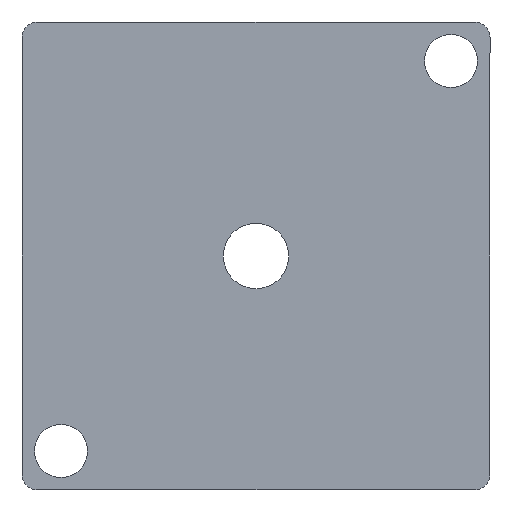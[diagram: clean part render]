
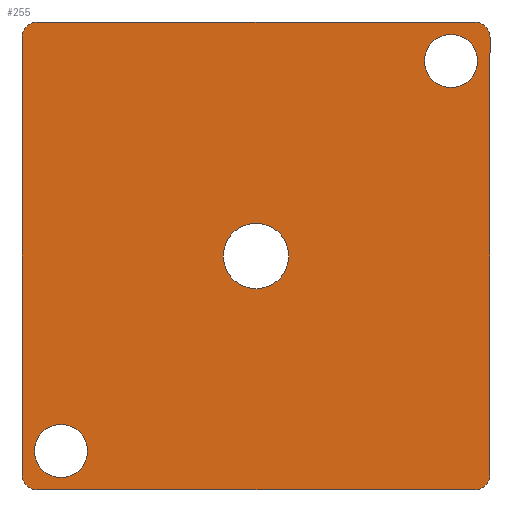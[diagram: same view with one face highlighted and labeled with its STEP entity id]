
A CAD part, left-side view. The second image highlights one B-rep face of the part: STEP entity #255.
In plain terms, the highlighted planar face has unit normal (-1, 0, 0).
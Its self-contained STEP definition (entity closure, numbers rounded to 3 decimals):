
#15=FACE_BOUND('',#42,.T.);
#16=FACE_BOUND('',#43,.T.);
#17=FACE_BOUND('',#44,.T.);
#21=PLANE('',#290);
#28=FACE_OUTER_BOUND('',#41,.T.);
#41=EDGE_LOOP('',(#179,#180,#181,#182,#183,#184,#185,#186));
#42=EDGE_LOOP('',(#187));
#43=EDGE_LOOP('',(#188));
#44=EDGE_LOOP('',(#189));
#61=LINE('',#410,#80);
#62=LINE('',#414,#81);
#63=LINE('',#418,#82);
#64=LINE('',#421,#83);
#80=VECTOR('',#329,10.);
#81=VECTOR('',#332,10.);
#82=VECTOR('',#335,10.);
#83=VECTOR('',#338,10.);
#98=CIRCLE('',#289,2.);
#99=CIRCLE('',#291,2.);
#100=CIRCLE('',#292,2.);
#101=CIRCLE('',#293,2.);
#102=CIRCLE('',#294,3.4);
#103=CIRCLE('',#295,3.4);
#104=CIRCLE('',#296,4.188);
#116=VERTEX_POINT('',#403);
#117=VERTEX_POINT('',#405);
#118=VERTEX_POINT('',#409);
#119=VERTEX_POINT('',#411);
#120=VERTEX_POINT('',#413);
#121=VERTEX_POINT('',#415);
#122=VERTEX_POINT('',#417);
#123=VERTEX_POINT('',#419);
#124=VERTEX_POINT('',#422);
#125=VERTEX_POINT('',#424);
#126=VERTEX_POINT('',#426);
#141=EDGE_CURVE('',#116,#117,#98,.T.);
#143=EDGE_CURVE('',#118,#116,#61,.T.);
#144=EDGE_CURVE('',#119,#118,#99,.T.);
#145=EDGE_CURVE('',#120,#119,#62,.T.);
#146=EDGE_CURVE('',#121,#120,#100,.T.);
#147=EDGE_CURVE('',#122,#121,#63,.T.);
#148=EDGE_CURVE('',#123,#122,#101,.T.);
#149=EDGE_CURVE('',#117,#123,#64,.T.);
#150=EDGE_CURVE('',#124,#124,#102,.T.);
#151=EDGE_CURVE('',#125,#125,#103,.T.);
#152=EDGE_CURVE('',#126,#126,#104,.T.);
#179=ORIENTED_EDGE('',*,*,#141,.F.);
#180=ORIENTED_EDGE('',*,*,#143,.F.);
#181=ORIENTED_EDGE('',*,*,#144,.F.);
#182=ORIENTED_EDGE('',*,*,#145,.F.);
#183=ORIENTED_EDGE('',*,*,#146,.F.);
#184=ORIENTED_EDGE('',*,*,#147,.F.);
#185=ORIENTED_EDGE('',*,*,#148,.F.);
#186=ORIENTED_EDGE('',*,*,#149,.F.);
#187=ORIENTED_EDGE('',*,*,#150,.T.);
#188=ORIENTED_EDGE('',*,*,#151,.T.);
#189=ORIENTED_EDGE('',*,*,#152,.T.);
#255=ADVANCED_FACE('',(#28,#15,#16,#17),#21,.F.);
#289=AXIS2_PLACEMENT_3D('',#406,#324,#325);
#290=AXIS2_PLACEMENT_3D('',#408,#327,#328);
#291=AXIS2_PLACEMENT_3D('',#412,#330,#331);
#292=AXIS2_PLACEMENT_3D('',#416,#333,#334);
#293=AXIS2_PLACEMENT_3D('',#420,#336,#337);
#294=AXIS2_PLACEMENT_3D('',#423,#339,#340);
#295=AXIS2_PLACEMENT_3D('',#425,#341,#342);
#296=AXIS2_PLACEMENT_3D('',#427,#343,#344);
#324=DIRECTION('center_axis',(1.,0.,0.));
#325=DIRECTION('ref_axis',(0.,0.707,-0.707));
#327=DIRECTION('center_axis',(1.,0.,0.));
#328=DIRECTION('ref_axis',(0.,0.,-1.));
#329=DIRECTION('',(0.,1.,0.));
#330=DIRECTION('center_axis',(1.,0.,0.));
#331=DIRECTION('ref_axis',(0.,-0.707,-0.707));
#332=DIRECTION('',(0.,0.,-1.));
#333=DIRECTION('center_axis',(1.,0.,0.));
#334=DIRECTION('ref_axis',(0.,-0.707,0.707));
#335=DIRECTION('',(0.,-1.,0.));
#336=DIRECTION('center_axis',(1.,0.,0.));
#337=DIRECTION('ref_axis',(0.,0.707,0.707));
#338=DIRECTION('',(0.,0.,1.));
#339=DIRECTION('center_axis',(1.,0.,0.));
#340=DIRECTION('ref_axis',(0.,1.,0.));
#341=DIRECTION('center_axis',(1.,0.,0.));
#342=DIRECTION('ref_axis',(0.,1.,0.));
#343=DIRECTION('center_axis',(1.,0.,0.));
#344=DIRECTION('ref_axis',(0.,1.,0.));
#403=CARTESIAN_POINT('',(0.,22.616,-35.902));
#405=CARTESIAN_POINT('',(0.,24.616,-33.902));
#406=CARTESIAN_POINT('Origin',(0.,22.616,-33.902));
#408=CARTESIAN_POINT('Origin',(0.,-5.384,-5.902));
#409=CARTESIAN_POINT('',(0.,-33.384,-35.902));
#410=CARTESIAN_POINT('',(0.,-35.384,-35.902));
#411=CARTESIAN_POINT('',(0.,-35.384,-33.902));
#412=CARTESIAN_POINT('Origin',(0.,-33.384,-33.902));
#413=CARTESIAN_POINT('',(0.,-35.384,22.098));
#414=CARTESIAN_POINT('',(0.,-35.384,24.098));
#415=CARTESIAN_POINT('',(0.,-33.384,24.098));
#416=CARTESIAN_POINT('Origin',(0.,-33.384,22.098));
#417=CARTESIAN_POINT('',(0.,22.616,24.098));
#418=CARTESIAN_POINT('',(0.,24.616,24.098));
#419=CARTESIAN_POINT('',(0.,24.616,22.098));
#420=CARTESIAN_POINT('Origin',(0.,22.616,22.098));
#421=CARTESIAN_POINT('',(0.,24.616,-35.902));
#422=CARTESIAN_POINT('',(0.,16.216,-30.902));
#423=CARTESIAN_POINT('Origin',(0.,19.616,-30.902));
#424=CARTESIAN_POINT('',(0.,-33.784,19.098));
#425=CARTESIAN_POINT('Origin',(0.,-30.384,19.098));
#426=CARTESIAN_POINT('',(0.,-9.572,-5.902));
#427=CARTESIAN_POINT('Origin',(0.,-5.384,-5.902));
